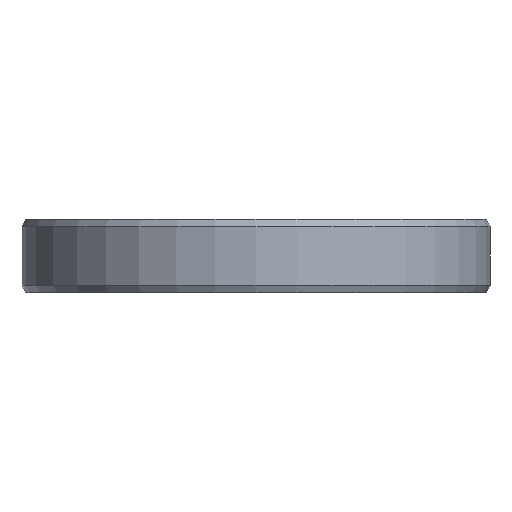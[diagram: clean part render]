
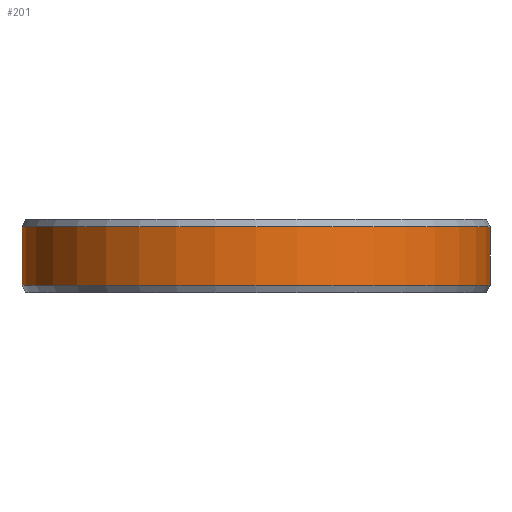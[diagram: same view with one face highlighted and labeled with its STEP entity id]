
A CAD part, front view. The second image highlights one B-rep face of the part: STEP entity #201.
In plain terms, the highlighted cylindrical face has radius 16 mm (diameter 32 mm), a full revolution.
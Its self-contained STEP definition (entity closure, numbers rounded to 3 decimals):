
#21=CYLINDRICAL_SURFACE('',#246,16.);
#26=LINE('',#367,#36);
#36=VECTOR('',#300,16.);
#55=FACE_OUTER_BOUND('',#69,.T.);
#69=EDGE_LOOP('',(#159,#160,#161,#162,#163,#164));
#87=CIRCLE('',#243,16.);
#88=CIRCLE('',#244,16.);
#90=CIRCLE('',#247,16.);
#91=CIRCLE('',#248,16.);
#103=VERTEX_POINT('',#355);
#104=VERTEX_POINT('',#356);
#106=VERTEX_POINT('',#363);
#107=VERTEX_POINT('',#364);
#122=EDGE_CURVE('',#103,#104,#87,.T.);
#123=EDGE_CURVE('',#104,#103,#88,.T.);
#126=EDGE_CURVE('',#106,#107,#90,.T.);
#127=EDGE_CURVE('',#107,#106,#91,.T.);
#128=EDGE_CURVE('',#107,#104,#26,.T.);
#159=ORIENTED_EDGE('',*,*,#126,.F.);
#160=ORIENTED_EDGE('',*,*,#127,.F.);
#161=ORIENTED_EDGE('',*,*,#128,.T.);
#162=ORIENTED_EDGE('',*,*,#122,.F.);
#163=ORIENTED_EDGE('',*,*,#123,.F.);
#164=ORIENTED_EDGE('',*,*,#128,.F.);
#201=ADVANCED_FACE('',(#55),#21,.T.);
#243=AXIS2_PLACEMENT_3D('',#357,#287,#288);
#244=AXIS2_PLACEMENT_3D('',#358,#289,#290);
#246=AXIS2_PLACEMENT_3D('',#362,#294,#295);
#247=AXIS2_PLACEMENT_3D('',#365,#296,#297);
#248=AXIS2_PLACEMENT_3D('',#366,#298,#299);
#287=DIRECTION('center_axis',(0.,0.,1.));
#288=DIRECTION('ref_axis',(1.,0.,0.));
#289=DIRECTION('center_axis',(0.,0.,1.));
#290=DIRECTION('ref_axis',(1.,0.,0.));
#294=DIRECTION('center_axis',(0.,0.,-1.));
#295=DIRECTION('ref_axis',(-1.,0.,0.));
#296=DIRECTION('center_axis',(0.,0.,-1.));
#297=DIRECTION('ref_axis',(1.,0.,0.));
#298=DIRECTION('center_axis',(0.,0.,-1.));
#299=DIRECTION('ref_axis',(1.,0.,0.));
#300=DIRECTION('',(0.,0.,1.));
#355=CARTESIAN_POINT('',(-16.,0.,-0.5));
#356=CARTESIAN_POINT('',(16.,0.,-0.5));
#357=CARTESIAN_POINT('Origin',(0.,0.,-0.5));
#358=CARTESIAN_POINT('Origin',(0.,0.,-0.5));
#362=CARTESIAN_POINT('Origin',(0.,0.,-2.5));
#363=CARTESIAN_POINT('',(-16.,0.,-4.5));
#364=CARTESIAN_POINT('',(16.,0.,-4.5));
#365=CARTESIAN_POINT('Origin',(0.,0.,-4.5));
#366=CARTESIAN_POINT('Origin',(0.,0.,-4.5));
#367=CARTESIAN_POINT('',(16.,0.,-2.5));
